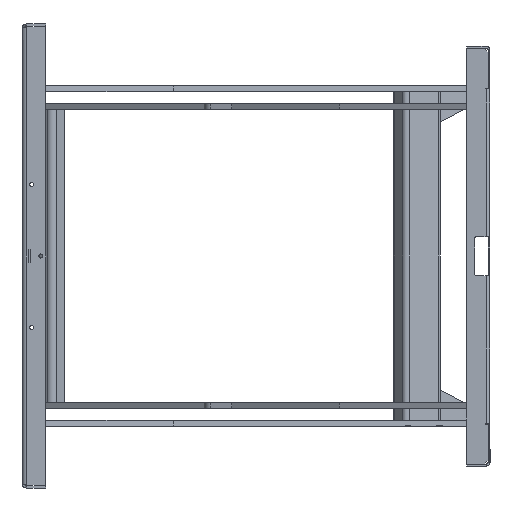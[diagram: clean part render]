
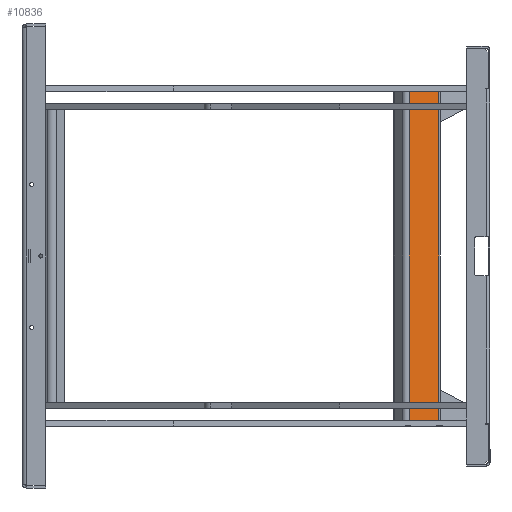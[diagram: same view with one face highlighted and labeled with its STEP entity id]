
A CAD part, left-side view. The second image highlights one B-rep face of the part: STEP entity #10836.
In plain terms, the highlighted planar face has unit normal (-0.793, -0.609, 0) as drawn and (1, 0, 0) by its records, which use the part's own axes.
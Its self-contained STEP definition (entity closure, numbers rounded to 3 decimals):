
#1072=FACE_OUTER_BOUND('',#1707,.T.);
#1707=EDGE_LOOP('',(#8096,#8097,#8098,#8099));
#2608=LINE('',#16430,#3788);
#2609=LINE('',#16432,#3789);
#2610=LINE('',#16434,#3790);
#2611=LINE('',#16435,#3791);
#3788=VECTOR('',#13311,10.);
#3789=VECTOR('',#13312,10.);
#3790=VECTOR('',#13313,10.);
#3791=VECTOR('',#13314,10.);
#4910=VERTEX_POINT('',#16428);
#4911=VERTEX_POINT('',#16429);
#4912=VERTEX_POINT('',#16431);
#4913=VERTEX_POINT('',#16433);
#6089=EDGE_CURVE('',#4910,#4911,#2608,.T.);
#6090=EDGE_CURVE('',#4912,#4911,#2609,.T.);
#6091=EDGE_CURVE('',#4913,#4912,#2610,.T.);
#6092=EDGE_CURVE('',#4913,#4910,#2611,.T.);
#8096=ORIENTED_EDGE('',*,*,#6089,.T.);
#8097=ORIENTED_EDGE('',*,*,#6090,.F.);
#8098=ORIENTED_EDGE('',*,*,#6091,.F.);
#8099=ORIENTED_EDGE('',*,*,#6092,.T.);
#10360=PLANE('',#11700);
#10836=ADVANCED_FACE('',(#1072),#10360,.T.);
#11700=AXIS2_PLACEMENT_3D('',#16427,#13309,#13310);
#13309=DIRECTION('center_axis',(1.,0.,0.));
#13310=DIRECTION('ref_axis',(0.,0.,-1.));
#13311=DIRECTION('',(0.,-1.,0.));
#13312=DIRECTION('',(0.,0.,1.));
#13313=DIRECTION('',(0.,-1.,0.));
#13314=DIRECTION('',(0.,0.,1.));
#16427=CARTESIAN_POINT('Origin',(30.,48.,0.));
#16428=CARTESIAN_POINT('',(30.,48.,850.));
#16429=CARTESIAN_POINT('',(30.,-48.,850.));
#16430=CARTESIAN_POINT('',(30.,24.,850.));
#16431=CARTESIAN_POINT('',(30.,-48.,0.));
#16432=CARTESIAN_POINT('',(30.,-48.,0.));
#16433=CARTESIAN_POINT('',(30.,48.,0.));
#16434=CARTESIAN_POINT('',(30.,24.,0.));
#16435=CARTESIAN_POINT('',(30.,48.,0.));
